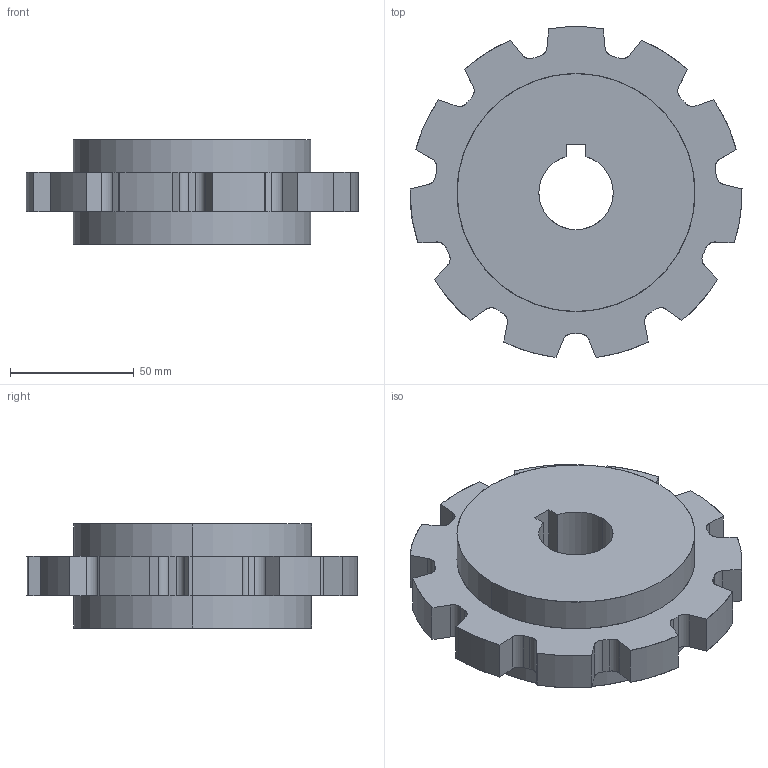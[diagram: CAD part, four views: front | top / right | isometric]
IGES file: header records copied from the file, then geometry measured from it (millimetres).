
Start section: SolidWorks IGES file using analytic representation for surfaces
Global section: file name: C:\Documents and Settings\URETIM3\Desktop\yeni katalog tolgay\387 asetal dönüþlü bant diþlisi (tek parça)\387 KDT 211.IGS; native system: SolidWorks 2006 by SolidWorks Corporation; preprocessor: SolidWorks 2006 by SolidWorks Corporation; author: URETIM3; date: 061108.085240; units: millimetre
Bounding box: 133.98 x 133.51 x 42 mm (x, y, z)
Surface area: 45013.9 mm2 (no closed solid volume)
Topology: 0 solids, 0 shells, 85 faces, 990 edges, 990 vertices
Faces by surface type: revolution 56, bspline 29
